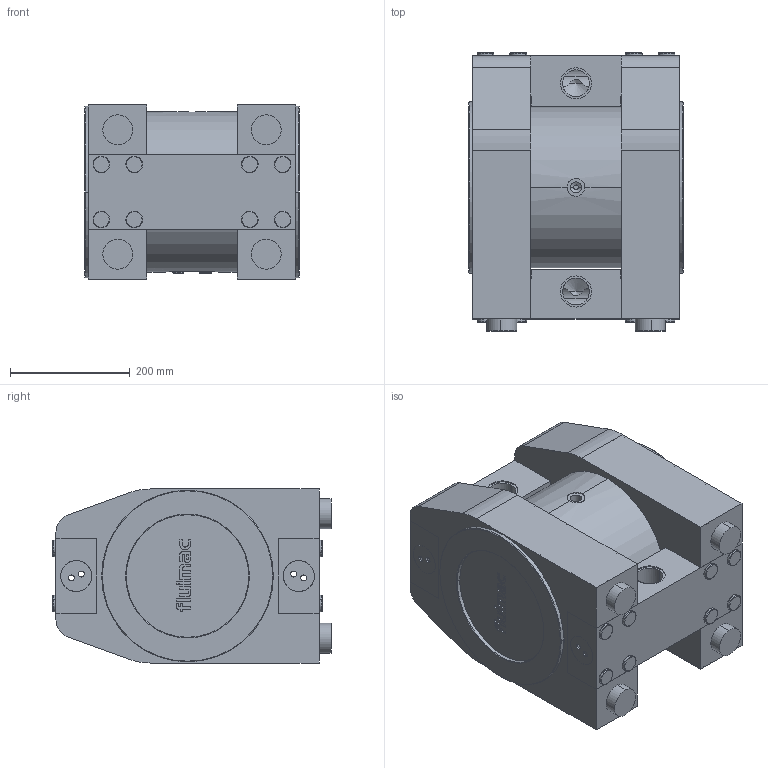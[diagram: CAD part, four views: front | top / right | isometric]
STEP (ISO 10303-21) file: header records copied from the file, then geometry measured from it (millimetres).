
FILE_DESCRIPTION (( 'STEP AP203' ), '1' );
FILE_NAME ('LOTUS 40.STEP', '2024-06-19T10:28:29', ( '' ), ( '' ), 'SwSTEP 2.0', 'SolidWorks 2023', '' );
FILE_SCHEMA (( 'CONFIG_CONTROL_DESIGN' ));
Products named in the file (1): LOTUS 40
Bounding box: 359 x 465 x 291 mm (x, y, z)
Volume: 5190848.4 mm3; surface area: 1878538.4 mm2
Topology: 35 solids, 35 shells, 2353 faces, 6868 edges, 4529 vertices
Faces by surface type: plane 1232, cylinder 603, torus 382, bspline 100, cone 24, sphere 12
Entity records: 86028 total; most frequent: CARTESIAN_POINT 24861, ORIENTED_EDGE 13704, DIRECTION 11257, EDGE_CURVE 6852, VERTEX_POINT 4527, VECTOR 3771, LINE 3771, AXIS2_PLACEMENT_3D 3743
